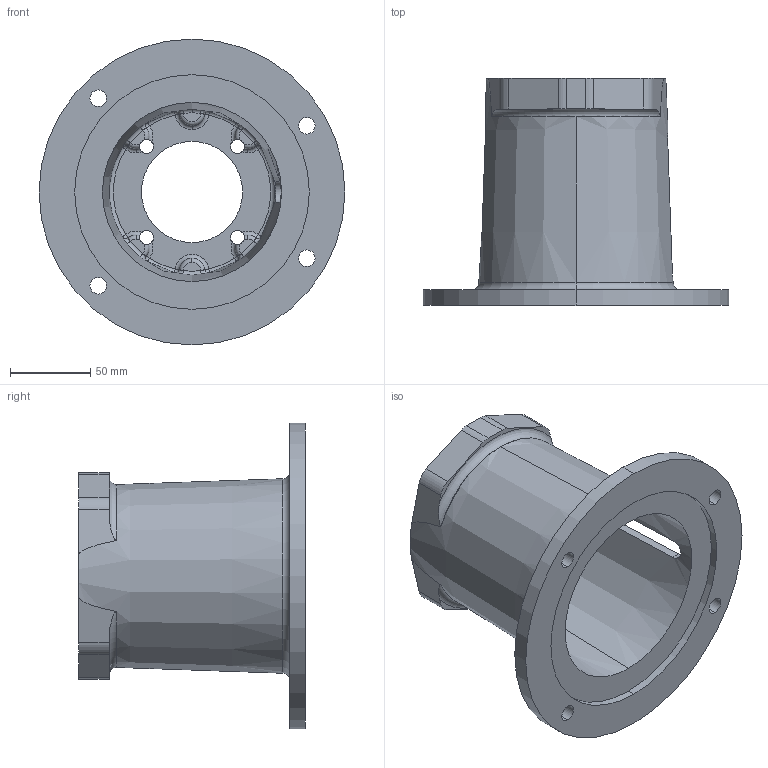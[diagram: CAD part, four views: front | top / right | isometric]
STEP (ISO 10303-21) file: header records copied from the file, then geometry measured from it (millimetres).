
FILE_DESCRIPTION (( 'STEP AP203' ), '1' );
FILE_NAME ('E5755263MS.STEP', '2014-11-03T15:44:37', ( '' ), ( '' ), 'SwSTEP 2.0', 'SolidWorks 2014', '' );
FILE_SCHEMA (( 'CONFIG_CONTROL_DESIGN' ));
Length unit declared in the file: inch
Products named in the file (1): E5755263MS
Bounding box: 190.5 x 141.22 x 190.5 mm (x, y, z)
Volume: 475375.1 mm3; surface area: 150947.9 mm2
Topology: 1 solids, 1 shells, 179 faces, 470 edges, 280 vertices
Faces by surface type: torus 60, cylinder 32, plane 25, sphere 24, bspline 24, cone 14
Entity records: 7375 total; most frequent: CARTESIAN_POINT 2986, DIRECTION 954, ORIENTED_EDGE 916, EDGE_CURVE 458, AXIS2_PLACEMENT_3D 444, CIRCLE 288, VERTEX_POINT 280, EDGE_LOOP 198
